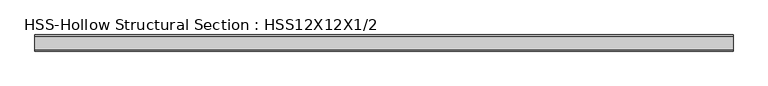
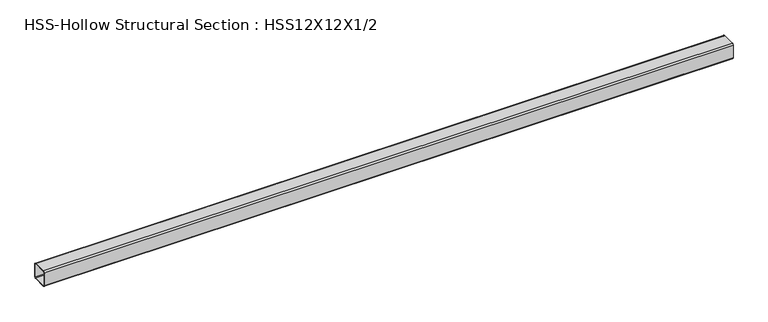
"""IFC4 building model written with IfcOpenShell, lengths in millimetres: beam geometry, HSS-Hollow Structural Section : HSS12X12X1/2."""

import ifcopenshell
import ifcopenshell.guid

model = None  # the IFC model being written
_history = None  # IfcOwnerHistory: only IFC2X3 demands one
_inside = {}  # id of a spatial element -> (the spatial element, [elements in it])
_under = {}  # id of a project, library or spatial element -> (it, [spatial elements below it])
_declared = {}  # id of a project -> (the project, [libraries it declares])
_typed = {}  # id of a type object -> (the type object, [elements of that type])
_made_of = {}  # id of a material, layer set ... -> (it, [elements and type objects made of it])


def new_model(schema):
    """Start an empty IFC model of exactly this schema.

    Asked for "IFC4X3", IfcOpenShell would pick the latest addendum, in which some entities
    have other attributes; the version numbers below select the first issue.
    IFC2X3 requires an IfcOwnerHistory on every rooted entity: one is made here for all.
    """
    global model, _history
    if schema == "IFC4X3":
        model = ifcopenshell.file(schema_version=(4, 3, 0, 0))
    else:
        model = ifcopenshell.file(schema=schema)
    _inside.clear()
    _under.clear()
    _declared.clear()
    _typed.clear()
    _made_of.clear()
    _history = None
    if model.schema == "IFC2X3":
        org = make("IfcOrganization", Name="unknown")
        user = make(
            "IfcPersonAndOrganization",
            ThePerson=make("IfcPerson", FamilyName="unknown"),
            TheOrganization=org,
        )
        app = make(
            "IfcApplication",
            ApplicationDeveloper=org,
            Version="unknown",
            ApplicationFullName="unknown",
            ApplicationIdentifier="unknown",
        )
        _history = make(
            "IfcOwnerHistory",
            OwningUser=user,
            OwningApplication=app,
            ChangeAction="ADDED",
            CreationDate=0,
        )
    return model


def make(cls, **values):
    """One entity of the class cls with the attributes given. An attribute that is None is left unset."""
    return model.create_entity(
        cls, **{name: value for name, value in values.items() if value is not None}
    )


def rooted(cls, **values):
    """An entity with a GlobalId (a new one), such as an element, a storey or a relation."""
    return make(cls, GlobalId=ifcopenshell.guid.new(), OwnerHistory=_history, **values)


def si_unit(unit_type, name, prefix=None):
    """IfcSIUnit, for example si_unit("LENGTHUNIT", "METRE", prefix="MILLI")."""
    return make("IfcSIUnit", UnitType=unit_type, Prefix=prefix, Name=name)


def assignment(units):
    """IfcUnitAssignment: the units of a project."""
    return None if units is None else make("IfcUnitAssignment", Units=units)


def point(xyz):
    """IfcCartesianPoint."""
    return None if xyz is None else make("IfcCartesianPoint", Coordinates=xyz)


def direction(xyz):
    """IfcDirection."""
    return None if xyz is None else make("IfcDirection", DirectionRatios=xyz)


def frame(location, z_axis=None, x_axis=None):
    """IfcAxis2Placement3D, a coordinate frame: its origin and axes. An axis left out is left unset."""
    return make(
        "IfcAxis2Placement3D",
        Location=point(location),
        Axis=direction(z_axis),
        RefDirection=direction(x_axis),
    )


def frame_2d(location, x_axis=None):
    """IfcAxis2Placement2D, a coordinate frame in the plane: its origin and x axis."""
    return make(
        "IfcAxis2Placement2D", Location=point(location), RefDirection=direction(x_axis)
    )


def origin():
    """The frame at (0, 0, 0) with its axes left unset."""
    return frame((0.0, 0.0, 0.0))


def place(relative_to, where):
    """IfcLocalPlacement: puts the frame where relative to a parent placement (None: the world)."""
    return make(
        "IfcLocalPlacement", PlacementRelTo=relative_to, RelativePlacement=where
    )


def context(
    kind, dimensions, precision=None, world=None, true_north=None, identifier=None
):
    """IfcGeometricRepresentationContext, for example the 3D "Model" context."""
    return make(
        "IfcGeometricRepresentationContext",
        ContextIdentifier=identifier,
        ContextType=kind,
        CoordinateSpaceDimension=dimensions,
        Precision=precision,
        WorldCoordinateSystem=world,
        TrueNorth=true_north,
    )


def project(units=None, contexts=None):
    """IfcProject with its units and contexts."""
    return rooted(
        "IfcProject",
        Name="project",
        RepresentationContexts=contexts,
        UnitsInContext=assignment(units),
    )


def spatial(cls, under=None, at=None, **own):
    """A site, building, storey or space (cls), placed at a placement, below another one or the project."""
    s = rooted(cls, ObjectPlacement=at, **own)
    if under is not None:
        _under.setdefault(under.id(), (under, []))[1].append(s)
    return s


def polyline(points):
    """IfcPolyline through the points."""
    return make("IfcPolyline", Points=[point(p) for p in points])


def circle_curve(where, radius):
    """IfcCircle in the frame where."""
    return make("IfcCircle", Position=where, Radius=radius)


def trimmed(basis, trim1, trim2, sense, master):
    """IfcTrimmedCurve: the piece of a basis curve between two trims."""
    return make(
        "IfcTrimmedCurve",
        BasisCurve=basis,
        Trim1=trim1,
        Trim2=trim2,
        SenseAgreement=sense,
        MasterRepresentation=master,
    )


def segment(curve, same_sense, transition):
    """IfcCompositeCurveSegment."""
    return make(
        "IfcCompositeCurveSegment",
        Transition=transition,
        SameSense=same_sense,
        ParentCurve=curve,
    )


def composite_curve(segments, self_intersect=None):
    """IfcCompositeCurve: segments joined end to end."""
    return make("IfcCompositeCurve", Segments=segments, SelfIntersect=self_intersect)


def outline(outer, holes=None, kind="AREA"):
    """IfcArbitraryClosedProfileDef: a profile drawn as a closed curve; with holes, ...WithVoids."""
    if holes is None:
        return make("IfcArbitraryClosedProfileDef", ProfileType=kind, OuterCurve=outer)
    return make(
        "IfcArbitraryProfileDefWithVoids",
        ProfileType=kind,
        OuterCurve=outer,
        InnerCurves=holes,
    )


def extrude(swept, where, along, depth):
    """IfcExtrudedAreaSolid: the profile swept, set in the frame where, extruded along a direction by depth."""
    return make(
        "IfcExtrudedAreaSolid",
        SweptArea=swept,
        Position=where,
        ExtrudedDirection=direction(along),
        Depth=depth,
    )


def shape(context_of_items, identifier, shape_type, items):
    """IfcShapeRepresentation: the items that make up one representation, for example the "Body"."""
    return make(
        "IfcShapeRepresentation",
        ContextOfItems=context_of_items,
        RepresentationIdentifier=identifier,
        RepresentationType=shape_type,
        Items=items,
    )


def source(mapping_origin, context_of_items, identifier, shape_type, items):
    """IfcRepresentationMap: a shape defined once, which mapped items show again and again."""
    return make(
        "IfcRepresentationMap",
        MappingOrigin=mapping_origin,
        MappedRepresentation=shape(context_of_items, identifier, shape_type, items),
    )


def transform(
    local_origin,
    x_axis=None,
    y_axis=None,
    z_axis=None,
    scale=None,
    scale2=None,
    scale3=None,
    uniform=True,
):
    """IfcCartesianTransformationOperator3D, or its non-uniform kind. x_axis, y_axis, z_axis: its Axis1, 2, 3."""
    if uniform:
        return make(
            "IfcCartesianTransformationOperator3D",
            Axis1=direction(x_axis),
            Axis2=direction(y_axis),
            LocalOrigin=point(local_origin),
            Scale=scale,
            Axis3=direction(z_axis),
        )
    return make(
        "IfcCartesianTransformationOperator3DnonUniform",
        Axis1=direction(x_axis),
        Axis2=direction(y_axis),
        LocalOrigin=point(local_origin),
        Scale=scale,
        Axis3=direction(z_axis),
        Scale2=scale2,
        Scale3=scale3,
    )


def mapped(mapping_source, mapping_target):
    """IfcMappedItem: shows the shape of a source again, moved by a transform."""
    return make(
        "IfcMappedItem", MappingSource=mapping_source, MappingTarget=mapping_target
    )


def made_of(thing, what):
    """Note that an element or type object is made of a material, layer set ...; save() writes the relation."""
    if what is not None:
        _made_of.setdefault(what.id(), (what, []))[1].append(thing)
    return thing


def element(
    cls,
    number,
    at=None,
    inside=None,
    cuts=None,
    type_object=None,
    material=None,
    context=None,
    identifier="Body",
    shape_type=None,
    held_by="IfcProductDefinitionShape",
    body=None,
    shapes=None,
    **own,
):
    """One element of the class cls, such as IfcWall. Its Tag is "e" and its number.

    at: its placement. inside: the storey or other place that contains it. cuts: it is an
    opening in that element (IfcRelVoidsElement). A single representation is given by context,
    identifier, shape_type and body (its items); several are given by shapes. held_by: the class
    of the entity that holds the representations. save() writes the other relations.
    """
    e = rooted(cls, Tag="e%d" % number, ObjectPlacement=at, **own)
    if body is not None:
        shapes = [shape(context, identifier, shape_type, body)]
    if shapes is not None:
        e.Representation = make(held_by, Representations=shapes)
    if inside is not None:
        _inside.setdefault(inside.id(), (inside, []))[1].append(e)
    if cuts is not None:
        rooted(
            "IfcRelVoidsElement", RelatingBuildingElement=cuts, RelatedOpeningElement=e
        )
    if type_object is not None:
        _typed.setdefault(type_object.id(), (type_object, []))[1].append(e)
    return made_of(e, material)


def aggregate(whole, parts):
    """IfcRelAggregates: a whole, such as a stair, and the parts it consists of."""
    return rooted("IfcRelAggregates", RelatingObject=whole, RelatedObjects=parts)


def save(model, path):
    """Write the relations noted so far, then the file.

    IfcRelAggregates (storeys below a building ...), IfcRelContainedInSpatialStructure (elements
    in a storey), IfcRelDefinesByType, IfcRelAssociatesMaterial and IfcRelDeclares: one each for
    every whole, place, type object, material and project.
    """
    for whole, parts in _under.values():
        aggregate(whole, parts)
    for where, things in _inside.values():
        rooted(
            "IfcRelContainedInSpatialStructure",
            RelatedElements=things,
            RelatingStructure=where,
        )
    for kind, things in _typed.values():
        rooted("IfcRelDefinesByType", RelatedObjects=things, RelatingType=kind)
    for what, things in _made_of.values():
        rooted("IfcRelAssociatesMaterial", RelatedObjects=things, RelatingMaterial=what)
    for by, libraries in _declared.values():
        rooted("IfcRelDeclares", RelatingContext=by, RelatedDefinitions=libraries)
    model.write(path)


def hss_hollow_structural_section_hss12x12x1_2_830ae8b1(model_context):
    return source(origin(), model_context, "Body", "SweptSolid", [
        extrude(outline(composite_curve([segment(polyline([(152.4, 128.778), (152.4, -128.778)]), True, "CONTINUOUS"), segment(trimmed(circle_curve(frame_2d((128.778, -128.778)), 23.622), [point((152.4, -128.778))], [point((128.778, -152.4))], False, "CARTESIAN"), True, "CONTINUOUS"), segment(polyline([(128.778, -152.4), (-128.778, -152.4)]), True, "CONTINUOUS"), segment(trimmed(circle_curve(frame_2d((-128.778, -128.778)), 23.622), [point((-128.778, -152.4))], [point((-152.4, -128.778))], False, "CARTESIAN"), True, "CONTINUOUS"), segment(polyline([(-152.4, -128.778), (-152.4, 128.778)]), True, "CONTINUOUS"), segment(trimmed(circle_curve(frame_2d((-128.778, 128.778)), 23.622), [point((-152.4, 128.778))], [point((-128.778, 152.4))], False, "CARTESIAN"), True, "CONTINUOUS"), segment(polyline([(-128.778, 152.4), (128.778, 152.4)]), True, "CONTINUOUS"), segment(trimmed(circle_curve(frame_2d((128.778, 128.778)), 23.622), [point((128.778, 152.4))], [point((152.4, 128.778))], False, "CARTESIAN"), True, "CONTINUOUS")], self_intersect=False), holes=[composite_curve([segment(trimmed(circle_curve(frame_2d((-128.778, 128.778)), 11.811), [point((-128.778, 140.589))], [point((-140.589, 128.778))], True, "CARTESIAN"), True, "CONTINUOUS"), segment(polyline([(-140.589, 128.778), (-140.589, -128.778)]), True, "CONTINUOUS"), segment(trimmed(circle_curve(frame_2d((-128.778, -128.778)), 11.811), [point((-140.589, -128.778))], [point((-128.778, -140.589))], True, "CARTESIAN"), True, "CONTINUOUS"), segment(polyline([(-128.778, -140.589), (128.778, -140.589)]), True, "CONTINUOUS"), segment(trimmed(circle_curve(frame_2d((128.778, -128.778)), 11.811), [point((128.778, -140.589))], [point((140.589, -128.778))], True, "CARTESIAN"), True, "CONTINUOUS"), segment(polyline([(140.589, -128.778), (140.589, 128.778)]), True, "CONTINUOUS"), segment(trimmed(circle_curve(frame_2d((128.778, 128.778)), 11.811), [point((140.589, 128.778))], [point((128.778, 140.589))], True, "CARTESIAN"), True, "CONTINUOUS"), segment(polyline([(128.778, 140.589), (-128.778, 140.589)]), True, "CONTINUOUS")], self_intersect=False)]), frame((-6674.2846052, 0.0, 0.0), z_axis=(1.0, 0.0, 0.0), x_axis=(0.0, 1.0, 0.0)), (0.0, 0.0, 1.0), 13185.2498362),
    ])


if __name__ == "__main__":
    model = new_model("IFC4")
    model_context = context("Model", 3, world=origin())
    ifc_project = project(units=[si_unit("LENGTHUNIT", "METRE", prefix="MILLI")], contexts=[model_context])
    site = spatial("IfcSite", under=ifc_project)
    building = spatial("IfcBuilding", under=site)
    placement = place(None, origin())
    hss_hollow_structural_section_hss12x12x1_2_shape = hss_hollow_structural_section_hss12x12x1_2_830ae8b1(model_context)
    element("IfcBeam", 1, ObjectType="HSS-Hollow Structural Section : HSS12X12X1/2", at=placement, inside=building, context=model_context, shape_type="MappedRepresentation", body=[
        mapped(hss_hollow_structural_section_hss12x12x1_2_shape, transform((0.0, 0.0, 0.0), x_axis=(1.0, 0.0, 0.0), y_axis=(0.0, 1.0, 0.0), z_axis=(0.0, 0.0, 1.0))),
    ])
    save(model, "model.ifc")
